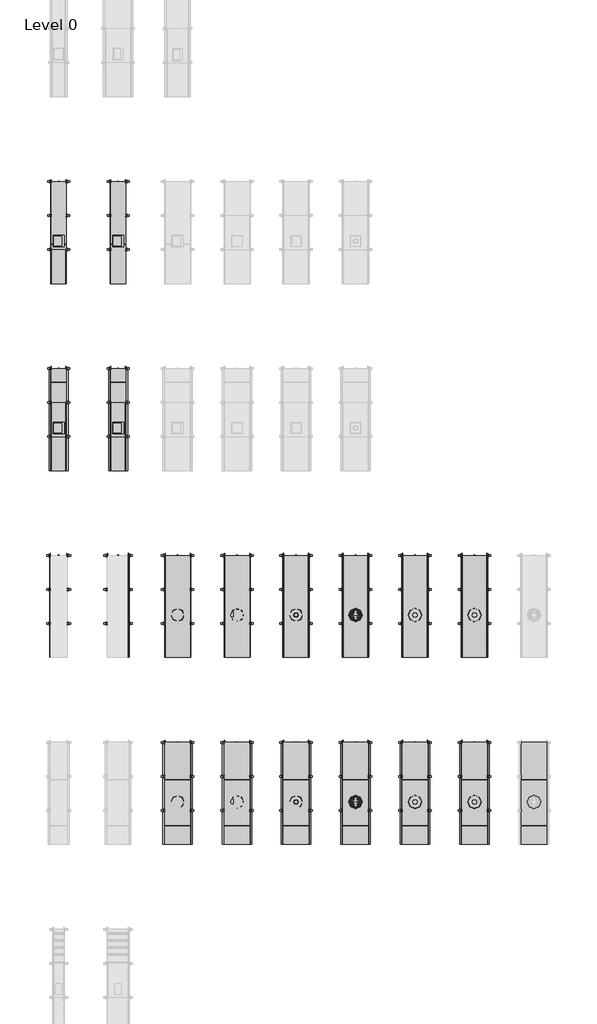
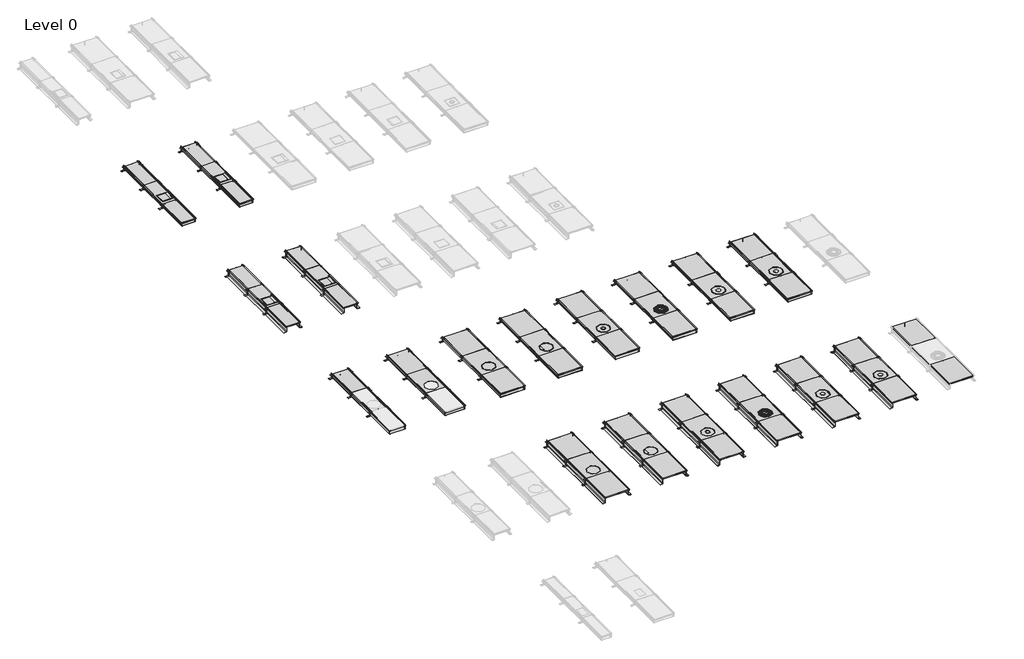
# One storey, part 2 of 4: 87 proxies, 17 cable carrier segments.
"""IFC4 building model written with IfcOpenShell, lengths in millimetres."""

from ifc_helpers import new_model, si_unit, frame, origin, place, context, project, spatial, polyline, outline, extrude, transform, mapped, element, save
from components import electrical_fixtures_b622e032, electrical_fixtures_5628a288, electrical_fixtures_3dcf8f7d, electrical_fixtures_91705b88, electrical_fixtures_aef36d11, electrical_fixtures_581fab28, electrical_fixtures_cec88ef4, electrical_fixtures_ba8608da, electrical_fixtures_4a2096c9, electrical_fixtures_b3832a11, electrical_fixtures_2455a1ed, electrical_fixtures_ce3c5b8d, electrical_fixtures_6beec135, electrical_fixtures_f82ab545, electrical_fixtures_a64f4c61, electrical_fixtures_7b31ae11, electrical_fixtures_a5200488, electrical_fixtures_af4d04ae, electrical_fixtures_e29cb0aa, electrical_fixtures_057aeb0d, electrical_fixtures_5c7b8e8e, color_deep_black_fa90bbad, stainless_steel_cassette_r12_bl_outer_height_28mm_04f2a1df, stainless_steel_cassette_r12_le_outer_height_28mm_2c233eef, stainless_steel_cassette_r12_tm_outer_height_28mm_5556ff63

model = new_model("IFC4")

# Units and contexts
model_context = context("Model", 3, world=origin())
ifc_project = project(units=[si_unit("LENGTHUNIT", "METRE", prefix="MILLI")], contexts=[model_context])

# Site, building, storey
site = spatial("IfcSite", under=ifc_project)
building = spatial("IfcBuilding", under=site)
storey = spatial("IfcBuildingStorey", under=building, Name="Level 0", Elevation=0.0)

# Proxies
placement = place(None, origin())
electrical_fixtures_shape = electrical_fixtures_b622e032(model_context)
element("IfcBuildingElementProxy", 1, Name="Electrical_Installation_Hager_Cover-R12-BKAD : Electrical_Installation_Hager_Cover-R12-BKAD", ObjectType="Electrical_Installation_Hager_Cover-R12-BKAD : Electrical_Installation_Hager_Cover-R12-BKAD", at=placement, inside=storey, context=model_context, shape_type="MappedRepresentation", body=[
    mapped(electrical_fixtures_shape, transform((-15999.1749622, -10496.4911142, 0.0), x_axis=(0.0, 1.0000000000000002, 0.0), y_axis=(-1.0000000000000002, 0.0, 0.0), z_axis=(0.0, 0.0, 1.0))),
])
element("IfcBuildingElementProxy", 2, Name="Electrical_Installation_Hager_Cover-R12-BKAD : Electrical_Installation_Hager_Cover-R12-BKAD", ObjectType="Electrical_Installation_Hager_Cover-R12-BKAD : Electrical_Installation_Hager_Cover-R12-BKAD", at=placement, inside=storey, context=model_context, shape_type="MappedRepresentation", body=[
    mapped(electrical_fixtures_shape, transform((-14599.1749622, -10496.4911142, 0.0), x_axis=(0.0, 1.0, 0.0), y_axis=(-1.0, 0.0, 0.0), z_axis=(0.0, 0.0, 1.0))),
])
element("IfcBuildingElementProxy", 3, Name="Electrical_Installation_Hager_Cover-R12-BKAD : Electrical_Installation_Hager_Cover-R12-BKAD", ObjectType="Electrical_Installation_Hager_Cover-R12-BKAD : Electrical_Installation_Hager_Cover-R12-BKAD", at=placement, inside=storey, context=model_context, shape_type="MappedRepresentation", body=[
    mapped(electrical_fixtures_shape, transform((-13212.1749622, -10496.4911142, 0.0), x_axis=(0.0, 1.0, 0.0), y_axis=(-1.0, 0.0, 0.0), z_axis=(0.0, 0.0, 1.0))),
])
element("IfcBuildingElementProxy", 4, Name="Electrical_Installation_Hager_Cover-R12-BKAD : Electrical_Installation_Hager_Cover-R12-BKAD", ObjectType="Electrical_Installation_Hager_Cover-R12-BKAD : Electrical_Installation_Hager_Cover-R12-BKAD", at=placement, inside=storey, context=model_context, shape_type="MappedRepresentation", body=[
    mapped(electrical_fixtures_shape, transform((-11812.1749622, -10496.4911142, 0.0), x_axis=(0.0, 1.0, 0.0), y_axis=(-1.0, 0.0, 0.0), z_axis=(0.0, 0.0, 1.0))),
])
element("IfcBuildingElementProxy", 5, Name="Electrical_Installation_Hager_Cover-R12-BKAD : Electrical_Installation_Hager_Cover-R12-BKAD", ObjectType="Electrical_Installation_Hager_Cover-R12-BKAD : Electrical_Installation_Hager_Cover-R12-BKAD", at=placement, inside=storey, context=model_context, shape_type="MappedRepresentation", body=[
    mapped(electrical_fixtures_shape, transform((-10412.2999622, -10496.4911142, 0.0), x_axis=(0.0, 1.0, 0.0), y_axis=(-1.0, 0.0, 0.0), z_axis=(0.0, 0.0, 1.0))),
])
element("IfcBuildingElementProxy", 6, Name="Electrical_Installation_Hager_Cover-R12-BKAD : Electrical_Installation_Hager_Cover-R12-BKAD", ObjectType="Electrical_Installation_Hager_Cover-R12-BKAD : Electrical_Installation_Hager_Cover-R12-BKAD", at=placement, inside=storey, context=model_context, shape_type="MappedRepresentation", body=[
    mapped(electrical_fixtures_shape, transform((-9012.1749622, -10496.4911142, 0.0), x_axis=(0.0, 1.0, 0.0), y_axis=(-1.0, 0.0, 0.0), z_axis=(0.0, 0.0, 1.0))),
])
element("IfcBuildingElementProxy", 7, Name="Electrical_Installation_Hager_Cover-R12-BKAD : Electrical_Installation_Hager_Cover-R12-BKAD", ObjectType="Electrical_Installation_Hager_Cover-R12-BKAD : Electrical_Installation_Hager_Cover-R12-BKAD", at=placement, inside=storey, context=model_context, shape_type="MappedRepresentation", body=[
    mapped(electrical_fixtures_shape, transform((-15999.1749622, -14896.5591011, 0.0), x_axis=(0.0, 1.0, 0.0), y_axis=(-1.0, 0.0, 0.0), z_axis=(0.0, 0.0, 1.0))),
])
element("IfcBuildingElementProxy", 8, Name="Electrical_Installation_Hager_Cover-R12-BKAD : Electrical_Installation_Hager_Cover-R12-BKAD", ObjectType="Electrical_Installation_Hager_Cover-R12-BKAD : Electrical_Installation_Hager_Cover-R12-BKAD", at=placement, inside=storey, context=model_context, shape_type="MappedRepresentation", body=[
    mapped(electrical_fixtures_shape, transform((-14599.1749622, -14896.5591011, 0.0), x_axis=(0.0, 1.0, 0.0), y_axis=(-1.0, 0.0, 0.0), z_axis=(0.0, 0.0, 1.0))),
])
element("IfcBuildingElementProxy", 9, Name="Electrical_Installation_Hager_Cover-R12-BKAD : Electrical_Installation_Hager_Cover-R12-BKAD", ObjectType="Electrical_Installation_Hager_Cover-R12-BKAD : Electrical_Installation_Hager_Cover-R12-BKAD", at=placement, inside=storey, context=model_context, shape_type="MappedRepresentation", body=[
    mapped(electrical_fixtures_shape, transform((-13212.1749622, -14896.5591011, 0.0), x_axis=(0.0, 1.0, 0.0), y_axis=(-1.0, 0.0, 0.0), z_axis=(0.0, 0.0, 1.0))),
])
element("IfcBuildingElementProxy", 10, Name="Electrical_Installation_Hager_Cover-R12-BKAD : Electrical_Installation_Hager_Cover-R12-BKAD", ObjectType="Electrical_Installation_Hager_Cover-R12-BKAD : Electrical_Installation_Hager_Cover-R12-BKAD", at=placement, inside=storey, context=model_context, shape_type="MappedRepresentation", body=[
    mapped(electrical_fixtures_shape, transform((-11812.1749622, -14896.5591011, 0.0), x_axis=(0.0, 1.0, 0.0), y_axis=(-1.0, 0.0, 0.0), z_axis=(0.0, 0.0, 1.0))),
])
element("IfcBuildingElementProxy", 11, Name="Electrical_Installation_Hager_Cover-R12-BKAD : Electrical_Installation_Hager_Cover-R12-BKAD", ObjectType="Electrical_Installation_Hager_Cover-R12-BKAD : Electrical_Installation_Hager_Cover-R12-BKAD", at=placement, inside=storey, context=model_context, shape_type="MappedRepresentation", body=[
    mapped(electrical_fixtures_shape, transform((-10412.2999622, -14896.5591011, 0.0), x_axis=(0.0, 1.0, 0.0), y_axis=(-1.0, 0.0, 0.0), z_axis=(0.0, 0.0, 1.0))),
])
element("IfcBuildingElementProxy", 12, Name="Electrical_Installation_Hager_Cover-R12-BKAD : Electrical_Installation_Hager_Cover-R12-BKAD", ObjectType="Electrical_Installation_Hager_Cover-R12-BKAD : Electrical_Installation_Hager_Cover-R12-BKAD", at=placement, inside=storey, context=model_context, shape_type="MappedRepresentation", body=[
    mapped(electrical_fixtures_shape, transform((-9012.1749622, -14896.5591011, 0.0), x_axis=(0.0, 1.0, 0.0), y_axis=(-1.0, 0.0, 0.0), z_axis=(0.0, 0.0, 1.0))),
])
electrical_fixtures_2_shape = electrical_fixtures_5628a288(model_context)
element("IfcBuildingElementProxy", 13, Name="Electrical_Installation_Hager_Cover-R12-BKAD : Electrical_Installation_Hager_Cover-R12-BKAD", ObjectType="Electrical_Installation_Hager_Cover-R12-BKAD : Electrical_Installation_Hager_Cover-R12-BKAD", at=placement, inside=storey, context=model_context, shape_type="MappedRepresentation", body=[
    mapped(electrical_fixtures_2_shape, transform((-17399.1749622, -10496.4911142, 0.0), x_axis=(0.0, 1.0000000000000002, 0.0), y_axis=(-1.0000000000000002, 0.0, 0.0), z_axis=(0.0, 0.0, 1.0))),
])
electrical_fixtures_3_shape = electrical_fixtures_3dcf8f7d(model_context)
electrical_fixtures_4_shape = electrical_fixtures_91705b88(model_context)
element("IfcBuildingElementProxy", 14, Name="Electrical_Installation_Hager_BKFD-Trunking-System-With-Flexible-Screed-Casing-And-Sealing-Option : Nominal Size 600  Length 2.4 m", ObjectType="Electrical_Installation_Hager_BKFD-Trunking-System-With-Flexible-Screed-Casing-And-Sealing-Option : Nominal Size 600  Length 2.4 m", at=placement, inside=storey, context=model_context, shape_type="MappedRepresentation", body=[
    mapped(electrical_fixtures_3_shape, transform((-15999.1749622, -13296.5591011, 0.0), x_axis=(0.0, -1.0, 0.0), y_axis=(1.0, 0.0, 0.0), z_axis=(0.0, 0.0, 1.0))),
    mapped(electrical_fixtures_4_shape, transform((-15999.1749622, -13296.5591011, 0.0), x_axis=(0.0, -1.0, 0.0), y_axis=(1.0, 0.0, 0.0), z_axis=(0.0, 0.0, 1.0))),
])
element("IfcBuildingElementProxy", 15, Name="Electrical_Installation_Hager_BKFD-Trunking-System-With-Flexible-Screed-Casing-And-Sealing-Option : Nominal Size 600  Length 2.4 m", ObjectType="Electrical_Installation_Hager_BKFD-Trunking-System-With-Flexible-Screed-Casing-And-Sealing-Option : Nominal Size 600  Length 2.4 m", at=placement, inside=storey, context=model_context, shape_type="MappedRepresentation", body=[
    mapped(electrical_fixtures_3_shape, transform((-14599.1749622, -13296.5591011, 0.0), x_axis=(0.0, -1.0, 0.0), y_axis=(1.0, 0.0, 0.0), z_axis=(0.0, 0.0, 1.0))),
    mapped(electrical_fixtures_4_shape, transform((-14599.1749622, -13296.5591011, 0.0), x_axis=(0.0, -1.0, 0.0), y_axis=(1.0, 0.0, 0.0), z_axis=(0.0, 0.0, 1.0))),
])
element("IfcBuildingElementProxy", 16, Name="Electrical_Installation_Hager_BKFD-Trunking-System-With-Flexible-Screed-Casing-And-Sealing-Option : Nominal Size 600  Length 2.4 m", ObjectType="Electrical_Installation_Hager_BKFD-Trunking-System-With-Flexible-Screed-Casing-And-Sealing-Option : Nominal Size 600  Length 2.4 m", at=placement, inside=storey, context=model_context, shape_type="MappedRepresentation", body=[
    mapped(electrical_fixtures_3_shape, transform((-13212.1749622, -13296.5591011, 0.0), x_axis=(0.0, -1.0, 0.0), y_axis=(1.0, 0.0, 0.0), z_axis=(0.0, 0.0, 1.0))),
    mapped(electrical_fixtures_4_shape, transform((-13212.1749622, -13296.5591011, 0.0), x_axis=(0.0, -1.0, 0.0), y_axis=(1.0, 0.0, 0.0), z_axis=(0.0, 0.0, 1.0))),
])
element("IfcBuildingElementProxy", 17, Name="Electrical_Installation_Hager_BKFD-Trunking-System-With-Flexible-Screed-Casing-And-Sealing-Option : Nominal Size 600  Length 2.4 m", ObjectType="Electrical_Installation_Hager_BKFD-Trunking-System-With-Flexible-Screed-Casing-And-Sealing-Option : Nominal Size 600  Length 2.4 m", at=placement, inside=storey, context=model_context, shape_type="MappedRepresentation", body=[
    mapped(electrical_fixtures_3_shape, transform((-11812.1749622, -13296.5591011, 0.0), x_axis=(0.0, -1.0, 0.0), y_axis=(1.0, 0.0, 0.0), z_axis=(0.0, 0.0, 1.0))),
    mapped(electrical_fixtures_4_shape, transform((-11812.1749622, -13296.5591011, 0.0), x_axis=(0.0, -1.0, 0.0), y_axis=(1.0, 0.0, 0.0), z_axis=(0.0, 0.0, 1.0))),
])
element("IfcBuildingElementProxy", 18, Name="Electrical_Installation_Hager_BKFD-Trunking-System-With-Flexible-Screed-Casing-And-Sealing-Option : Nominal Size 600  Length 2.4 m", ObjectType="Electrical_Installation_Hager_BKFD-Trunking-System-With-Flexible-Screed-Casing-And-Sealing-Option : Nominal Size 600  Length 2.4 m", at=placement, inside=storey, context=model_context, shape_type="MappedRepresentation", body=[
    mapped(electrical_fixtures_3_shape, transform((-10412.2999622, -13296.5591011, 0.0), x_axis=(0.0, -1.0, 0.0), y_axis=(1.0, 0.0, 0.0), z_axis=(0.0, 0.0, 1.0))),
    mapped(electrical_fixtures_4_shape, transform((-10412.2999622, -13296.5591011, 0.0), x_axis=(0.0, -1.0, 0.0), y_axis=(1.0, 0.0, 0.0), z_axis=(0.0, 0.0, 1.0))),
])
element("IfcBuildingElementProxy", 19, Name="Electrical_Installation_Hager_BKFD-Trunking-System-With-Flexible-Screed-Casing-And-Sealing-Option : Nominal Size 600  Length 2.4 m", ObjectType="Electrical_Installation_Hager_BKFD-Trunking-System-With-Flexible-Screed-Casing-And-Sealing-Option : Nominal Size 600  Length 2.4 m", at=placement, inside=storey, context=model_context, shape_type="MappedRepresentation", body=[
    mapped(electrical_fixtures_3_shape, transform((-9012.1749622, -13296.5591011, 0.0), x_axis=(0.0, -1.0, 0.0), y_axis=(1.0, 0.0, 0.0), z_axis=(0.0, 0.0, 1.0))),
    mapped(electrical_fixtures_4_shape, transform((-9012.1749622, -13296.5591011, 0.0), x_axis=(0.0, -1.0, 0.0), y_axis=(1.0, 0.0, 0.0), z_axis=(0.0, 0.0, 1.0))),
])
electrical_fixtures_5_shape = electrical_fixtures_aef36d11(model_context)
element("IfcBuildingElementProxy", 20, Name="Electrical_Installation_Hager_Blank-Cover-BKA : Electrical_Installation_Hager_Blank-Cover-BKA", ObjectType="Electrical_Installation_Hager_Blank-Cover-BKA : Electrical_Installation_Hager_Blank-Cover-BKA", at=placement, inside=storey, context=model_context, shape_type="MappedRepresentation", body=[
    mapped(electrical_fixtures_5_shape, transform((-18799.1749622, -9696.4911142, 0.0), x_axis=(0.0, 1.0, 0.0), y_axis=(-1.0, 0.0, 0.0), z_axis=(0.0, 0.0, 1.0))),
])
electrical_fixtures_6_shape = electrical_fixtures_581fab28(model_context)
element("IfcBuildingElementProxy", 21, Name="Electrical_Installation_Hager_Blank-Cover-BKA : Electrical_Installation_Hager_Blank-Cover-BKA", ObjectType="Electrical_Installation_Hager_Blank-Cover-BKA : Electrical_Installation_Hager_Blank-Cover-BKA", at=placement, inside=storey, context=model_context, shape_type="MappedRepresentation", body=[
    mapped(electrical_fixtures_6_shape, transform((-18799.1749622, -96.4762943, 0.0), x_axis=(0.0, -1.0, 0.0), y_axis=(1.0, 0.0, 0.0), z_axis=(0.0, 0.0, 1.0))),
])
element("IfcBuildingElementProxy", 22, Name="Electrical_Installation_Hager_Blank-Cover-BKA : Electrical_Installation_Hager_Blank-Cover-BKA", ObjectType="Electrical_Installation_Hager_Blank-Cover-BKA : Electrical_Installation_Hager_Blank-Cover-BKA", at=placement, inside=storey, context=model_context, shape_type="MappedRepresentation", body=[
    mapped(electrical_fixtures_6_shape, transform((-18799.1749622, -2496.4762943, 0.0), x_axis=(0.0, 1.0, 0.0), y_axis=(-1.0, 0.0, 0.0), z_axis=(0.0, 0.0, 1.0))),
])
element("IfcBuildingElementProxy", 23, Name="Electrical_Installation_Hager_Blank-Cover-BKA : Electrical_Installation_Hager_Blank-Cover-BKA", ObjectType="Electrical_Installation_Hager_Blank-Cover-BKA : Electrical_Installation_Hager_Blank-Cover-BKA", at=placement, inside=storey, context=model_context, shape_type="MappedRepresentation", body=[
    mapped(electrical_fixtures_6_shape, transform((-17399.1749622, -896.4762943, 0.0), x_axis=(0.0, 1.0, 0.0), y_axis=(-1.0, 0.0, 0.0), z_axis=(0.0, 0.0, 1.0))),
])
element("IfcBuildingElementProxy", 24, Name="Electrical_Installation_Hager_Blank-Cover-BKA : Electrical_Installation_Hager_Blank-Cover-BKA", ObjectType="Electrical_Installation_Hager_Blank-Cover-BKA : Electrical_Installation_Hager_Blank-Cover-BKA", at=placement, inside=storey, context=model_context, shape_type="MappedRepresentation", body=[
    mapped(electrical_fixtures_6_shape, transform((-17399.1749622, -1696.4762943, 0.0), x_axis=(0.0, -1.0, 0.0), y_axis=(1.0, 0.0, 0.0), z_axis=(0.0, 0.0, 1.0))),
])
element("IfcBuildingElementProxy", 25, Name="Electrical_Installation_Hager_Blank-Cover-BKA : Electrical_Installation_Hager_Blank-Cover-BKA", ObjectType="Electrical_Installation_Hager_Blank-Cover-BKA : Electrical_Installation_Hager_Blank-Cover-BKA", at=placement, inside=storey, context=model_context, shape_type="MappedRepresentation", body=[
    mapped(electrical_fixtures_6_shape, transform((-18799.1749622, -4496.4169363, 0.0), x_axis=(0.0, -1.0, 0.0), y_axis=(1.0, 0.0, 0.0), z_axis=(0.0, 0.0, 1.0))),
])
element("IfcBuildingElementProxy", 26, Name="Electrical_Installation_Hager_Blank-Cover-BKA : Electrical_Installation_Hager_Blank-Cover-BKA", ObjectType="Electrical_Installation_Hager_Blank-Cover-BKA : Electrical_Installation_Hager_Blank-Cover-BKA", at=placement, inside=storey, context=model_context, shape_type="MappedRepresentation", body=[
    mapped(electrical_fixtures_6_shape, transform((-18799.1749622, -6896.4169363, 0.0), x_axis=(0.0, 1.0, 0.0), y_axis=(-1.0, 0.0, 0.0), z_axis=(0.0, 0.0, 1.0))),
])
element("IfcBuildingElementProxy", 27, Name="Electrical_Installation_Hager_Blank-Cover-BKA : Electrical_Installation_Hager_Blank-Cover-BKA", ObjectType="Electrical_Installation_Hager_Blank-Cover-BKA : Electrical_Installation_Hager_Blank-Cover-BKA", at=placement, inside=storey, context=model_context, shape_type="MappedRepresentation", body=[
    mapped(electrical_fixtures_6_shape, transform((-17399.1749622, -5296.4169363, 0.0), x_axis=(0.0, 1.0, 0.0), y_axis=(-1.0, 0.0, 0.0), z_axis=(0.0, 0.0, 1.0))),
])
element("IfcBuildingElementProxy", 28, Name="Electrical_Installation_Hager_Blank-Cover-BKA : Electrical_Installation_Hager_Blank-Cover-BKA", ObjectType="Electrical_Installation_Hager_Blank-Cover-BKA : Electrical_Installation_Hager_Blank-Cover-BKA", at=placement, inside=storey, context=model_context, shape_type="MappedRepresentation", body=[
    mapped(electrical_fixtures_6_shape, transform((-17399.1749622, -6096.4169363, 0.0), x_axis=(0.0, -1.0, 0.0), y_axis=(1.0, 0.0, 0.0), z_axis=(0.0, 0.0, 1.0))),
])
electrical_fixtures_7_shape = electrical_fixtures_cec88ef4(model_context)
element("IfcBuildingElementProxy", 29, Name="Electrical_Installation_Hager_Blank-Cover-BKAD : Electrical_Installation_Hager_Blank-Cover-BKAD", ObjectType="Electrical_Installation_Hager_Blank-Cover-BKAD : Electrical_Installation_Hager_Blank-Cover-BKAD", at=placement, inside=storey, context=model_context, shape_type="MappedRepresentation", body=[
    mapped(electrical_fixtures_7_shape, transform((-15999.1749622, -10496.4911142, 0.0), x_axis=(0.0, -1.0, 0.0), y_axis=(1.0, 0.0, 0.0), z_axis=(0.0, 0.0, 1.0))),
])
element("IfcBuildingElementProxy", 30, Name="Electrical_Installation_Hager_Blank-Cover-BKAD : Electrical_Installation_Hager_Blank-Cover-BKAD", ObjectType="Electrical_Installation_Hager_Blank-Cover-BKAD : Electrical_Installation_Hager_Blank-Cover-BKAD", at=placement, inside=storey, context=model_context, shape_type="MappedRepresentation", body=[
    mapped(electrical_fixtures_7_shape, transform((-15999.1749622, -9696.4911142, 0.0), x_axis=(0.0, 1.0, 0.0), y_axis=(-1.0, 0.0, 0.0), z_axis=(0.0, 0.0, 1.0))),
])
element("IfcBuildingElementProxy", 31, Name="Electrical_Installation_Hager_Blank-Cover-BKAD : Electrical_Installation_Hager_Blank-Cover-BKAD", ObjectType="Electrical_Installation_Hager_Blank-Cover-BKAD : Electrical_Installation_Hager_Blank-Cover-BKAD", at=placement, inside=storey, context=model_context, shape_type="MappedRepresentation", body=[
    mapped(electrical_fixtures_7_shape, transform((-14599.1749622, -10496.4911142, 0.0), x_axis=(0.0, -1.0, 0.0), y_axis=(1.0, 0.0, 0.0), z_axis=(0.0, 0.0, 1.0))),
])
element("IfcBuildingElementProxy", 32, Name="Electrical_Installation_Hager_Blank-Cover-BKAD : Electrical_Installation_Hager_Blank-Cover-BKAD", ObjectType="Electrical_Installation_Hager_Blank-Cover-BKAD : Electrical_Installation_Hager_Blank-Cover-BKAD", at=placement, inside=storey, context=model_context, shape_type="MappedRepresentation", body=[
    mapped(electrical_fixtures_7_shape, transform((-14599.1749622, -9696.4911142, 0.0), x_axis=(0.0, 1.0, 0.0), y_axis=(-1.0, 0.0, 0.0), z_axis=(0.0, 0.0, 1.0))),
])
element("IfcBuildingElementProxy", 33, Name="Electrical_Installation_Hager_Blank-Cover-BKAD : Electrical_Installation_Hager_Blank-Cover-BKAD", ObjectType="Electrical_Installation_Hager_Blank-Cover-BKAD : Electrical_Installation_Hager_Blank-Cover-BKAD", at=placement, inside=storey, context=model_context, shape_type="MappedRepresentation", body=[
    mapped(electrical_fixtures_7_shape, transform((-13212.1749622, -10496.4911142, 0.0), x_axis=(0.0, -1.0, 0.0), y_axis=(1.0, 0.0, 0.0), z_axis=(0.0, 0.0, 1.0))),
])
element("IfcBuildingElementProxy", 34, Name="Electrical_Installation_Hager_Blank-Cover-BKAD : Electrical_Installation_Hager_Blank-Cover-BKAD", ObjectType="Electrical_Installation_Hager_Blank-Cover-BKAD : Electrical_Installation_Hager_Blank-Cover-BKAD", at=placement, inside=storey, context=model_context, shape_type="MappedRepresentation", body=[
    mapped(electrical_fixtures_7_shape, transform((-13212.1749622, -9696.4911142, 0.0), x_axis=(0.0, 1.0, 0.0), y_axis=(-1.0, 0.0, 0.0), z_axis=(0.0, 0.0, 1.0))),
])
element("IfcBuildingElementProxy", 35, Name="Electrical_Installation_Hager_Blank-Cover-BKAD : Electrical_Installation_Hager_Blank-Cover-BKAD", ObjectType="Electrical_Installation_Hager_Blank-Cover-BKAD : Electrical_Installation_Hager_Blank-Cover-BKAD", at=placement, inside=storey, context=model_context, shape_type="MappedRepresentation", body=[
    mapped(electrical_fixtures_7_shape, transform((-11812.1749622, -10496.4911142, 0.0), x_axis=(0.0, -1.0, 0.0), y_axis=(1.0, 0.0, 0.0), z_axis=(0.0, 0.0, 1.0))),
])
element("IfcBuildingElementProxy", 36, Name="Electrical_Installation_Hager_Blank-Cover-BKAD : Electrical_Installation_Hager_Blank-Cover-BKAD", ObjectType="Electrical_Installation_Hager_Blank-Cover-BKAD : Electrical_Installation_Hager_Blank-Cover-BKAD", at=placement, inside=storey, context=model_context, shape_type="MappedRepresentation", body=[
    mapped(electrical_fixtures_7_shape, transform((-11812.1749622, -9696.4911142, 0.0), x_axis=(0.0, 1.0, 0.0), y_axis=(-1.0, 0.0, 0.0), z_axis=(0.0, 0.0, 1.0))),
])
element("IfcBuildingElementProxy", 37, Name="Electrical_Installation_Hager_Blank-Cover-BKAD : Electrical_Installation_Hager_Blank-Cover-BKAD", ObjectType="Electrical_Installation_Hager_Blank-Cover-BKAD : Electrical_Installation_Hager_Blank-Cover-BKAD", at=placement, inside=storey, context=model_context, shape_type="MappedRepresentation", body=[
    mapped(electrical_fixtures_7_shape, transform((-10412.2999622, -10496.4911142, 0.0), x_axis=(0.0, -1.0, 0.0), y_axis=(1.0, 0.0, 0.0), z_axis=(0.0, 0.0, 1.0))),
])
element("IfcBuildingElementProxy", 38, Name="Electrical_Installation_Hager_Blank-Cover-BKAD : Electrical_Installation_Hager_Blank-Cover-BKAD", ObjectType="Electrical_Installation_Hager_Blank-Cover-BKAD : Electrical_Installation_Hager_Blank-Cover-BKAD", at=placement, inside=storey, context=model_context, shape_type="MappedRepresentation", body=[
    mapped(electrical_fixtures_7_shape, transform((-10412.2999622, -9696.4911142, 0.0), x_axis=(0.0, 1.0, 0.0), y_axis=(-1.0, 0.0, 0.0), z_axis=(0.0, 0.0, 1.0))),
])
element("IfcBuildingElementProxy", 39, Name="Electrical_Installation_Hager_Blank-Cover-BKAD : Electrical_Installation_Hager_Blank-Cover-BKAD", ObjectType="Electrical_Installation_Hager_Blank-Cover-BKAD : Electrical_Installation_Hager_Blank-Cover-BKAD", at=placement, inside=storey, context=model_context, shape_type="MappedRepresentation", body=[
    mapped(electrical_fixtures_7_shape, transform((-9012.1749622, -10496.4911142, 0.0), x_axis=(0.0, -1.0, 0.0), y_axis=(1.0, 0.0, 0.0), z_axis=(0.0, 0.0, 1.0))),
])
element("IfcBuildingElementProxy", 40, Name="Electrical_Installation_Hager_Blank-Cover-BKAD : Electrical_Installation_Hager_Blank-Cover-BKAD", ObjectType="Electrical_Installation_Hager_Blank-Cover-BKAD : Electrical_Installation_Hager_Blank-Cover-BKAD", at=placement, inside=storey, context=model_context, shape_type="MappedRepresentation", body=[
    mapped(electrical_fixtures_7_shape, transform((-9012.1749622, -9696.4911142, 0.0), x_axis=(0.0, 1.0, 0.0), y_axis=(-1.0, 0.0, 0.0), z_axis=(0.0, 0.0, 1.0))),
])
element("IfcBuildingElementProxy", 41, Name="Electrical_Installation_Hager_Blank-Cover-BKAD : Electrical_Installation_Hager_Blank-Cover-BKAD", ObjectType="Electrical_Installation_Hager_Blank-Cover-BKAD : Electrical_Installation_Hager_Blank-Cover-BKAD", at=placement, inside=storey, context=model_context, shape_type="MappedRepresentation", body=[
    mapped(electrical_fixtures_7_shape, transform((-15999.1749622, -14896.5591011, 0.0), x_axis=(0.0, -1.0, 0.0), y_axis=(1.0, 0.0, 0.0), z_axis=(0.0, 0.0, 1.0))),
])
element("IfcBuildingElementProxy", 42, Name="Electrical_Installation_Hager_Blank-Cover-BKAD : Electrical_Installation_Hager_Blank-Cover-BKAD", ObjectType="Electrical_Installation_Hager_Blank-Cover-BKAD : Electrical_Installation_Hager_Blank-Cover-BKAD", at=placement, inside=storey, context=model_context, shape_type="MappedRepresentation", body=[
    mapped(electrical_fixtures_7_shape, transform((-15999.1749622, -14096.5591011, 0.0), x_axis=(0.0, 1.0, 0.0), y_axis=(-1.0, 0.0, 0.0), z_axis=(0.0, 0.0, 1.0))),
])
element("IfcBuildingElementProxy", 43, Name="Electrical_Installation_Hager_Blank-Cover-BKAD : Electrical_Installation_Hager_Blank-Cover-BKAD", ObjectType="Electrical_Installation_Hager_Blank-Cover-BKAD : Electrical_Installation_Hager_Blank-Cover-BKAD", at=placement, inside=storey, context=model_context, shape_type="MappedRepresentation", body=[
    mapped(electrical_fixtures_7_shape, transform((-14599.1749622, -14896.5591011, 0.0), x_axis=(0.0, -1.0, 0.0), y_axis=(1.0, 0.0, 0.0), z_axis=(0.0, 0.0, 1.0))),
])
element("IfcBuildingElementProxy", 44, Name="Electrical_Installation_Hager_Blank-Cover-BKAD : Electrical_Installation_Hager_Blank-Cover-BKAD", ObjectType="Electrical_Installation_Hager_Blank-Cover-BKAD : Electrical_Installation_Hager_Blank-Cover-BKAD", at=placement, inside=storey, context=model_context, shape_type="MappedRepresentation", body=[
    mapped(electrical_fixtures_7_shape, transform((-14599.1749622, -14096.5591011, 0.0), x_axis=(0.0, 1.0, 0.0), y_axis=(-1.0, 0.0, 0.0), z_axis=(0.0, 0.0, 1.0))),
])
element("IfcBuildingElementProxy", 45, Name="Electrical_Installation_Hager_Blank-Cover-BKAD : Electrical_Installation_Hager_Blank-Cover-BKAD", ObjectType="Electrical_Installation_Hager_Blank-Cover-BKAD : Electrical_Installation_Hager_Blank-Cover-BKAD", at=placement, inside=storey, context=model_context, shape_type="MappedRepresentation", body=[
    mapped(electrical_fixtures_7_shape, transform((-13212.1749622, -14896.5591011, 0.0), x_axis=(0.0, -1.0, 0.0), y_axis=(1.0, 0.0, 0.0), z_axis=(0.0, 0.0, 1.0))),
])
element("IfcBuildingElementProxy", 46, Name="Electrical_Installation_Hager_Blank-Cover-BKAD : Electrical_Installation_Hager_Blank-Cover-BKAD", ObjectType="Electrical_Installation_Hager_Blank-Cover-BKAD : Electrical_Installation_Hager_Blank-Cover-BKAD", at=placement, inside=storey, context=model_context, shape_type="MappedRepresentation", body=[
    mapped(electrical_fixtures_7_shape, transform((-13212.1749622, -14096.5591011, 0.0), x_axis=(0.0, 1.0, 0.0), y_axis=(-1.0, 0.0, 0.0), z_axis=(0.0, 0.0, 1.0))),
])
element("IfcBuildingElementProxy", 47, Name="Electrical_Installation_Hager_Blank-Cover-BKAD : Electrical_Installation_Hager_Blank-Cover-BKAD", ObjectType="Electrical_Installation_Hager_Blank-Cover-BKAD : Electrical_Installation_Hager_Blank-Cover-BKAD", at=placement, inside=storey, context=model_context, shape_type="MappedRepresentation", body=[
    mapped(electrical_fixtures_7_shape, transform((-11812.1749622, -14896.5591011, 0.0), x_axis=(0.0, -1.0, 0.0), y_axis=(1.0, 0.0, 0.0), z_axis=(0.0, 0.0, 1.0))),
])
element("IfcBuildingElementProxy", 48, Name="Electrical_Installation_Hager_Blank-Cover-BKAD : Electrical_Installation_Hager_Blank-Cover-BKAD", ObjectType="Electrical_Installation_Hager_Blank-Cover-BKAD : Electrical_Installation_Hager_Blank-Cover-BKAD", at=placement, inside=storey, context=model_context, shape_type="MappedRepresentation", body=[
    mapped(electrical_fixtures_7_shape, transform((-11812.1749622, -14096.5591011, 0.0), x_axis=(0.0, 1.0, 0.0), y_axis=(-1.0, 0.0, 0.0), z_axis=(0.0, 0.0, 1.0))),
])
element("IfcBuildingElementProxy", 49, Name="Electrical_Installation_Hager_Blank-Cover-BKAD : Electrical_Installation_Hager_Blank-Cover-BKAD", ObjectType="Electrical_Installation_Hager_Blank-Cover-BKAD : Electrical_Installation_Hager_Blank-Cover-BKAD", at=placement, inside=storey, context=model_context, shape_type="MappedRepresentation", body=[
    mapped(electrical_fixtures_7_shape, transform((-10412.2999622, -14896.5591011, 0.0), x_axis=(0.0, -1.0, 0.0), y_axis=(1.0, 0.0, 0.0), z_axis=(0.0, 0.0, 1.0))),
])
element("IfcBuildingElementProxy", 50, Name="Electrical_Installation_Hager_Blank-Cover-BKAD : Electrical_Installation_Hager_Blank-Cover-BKAD", ObjectType="Electrical_Installation_Hager_Blank-Cover-BKAD : Electrical_Installation_Hager_Blank-Cover-BKAD", at=placement, inside=storey, context=model_context, shape_type="MappedRepresentation", body=[
    mapped(electrical_fixtures_7_shape, transform((-10412.2999622, -14096.5591011, 0.0), x_axis=(0.0, 1.0, 0.0), y_axis=(-1.0, 0.0, 0.0), z_axis=(0.0, 0.0, 1.0))),
])
element("IfcBuildingElementProxy", 51, Name="Electrical_Installation_Hager_Blank-Cover-BKAD : Electrical_Installation_Hager_Blank-Cover-BKAD", ObjectType="Electrical_Installation_Hager_Blank-Cover-BKAD : Electrical_Installation_Hager_Blank-Cover-BKAD", at=placement, inside=storey, context=model_context, shape_type="MappedRepresentation", body=[
    mapped(electrical_fixtures_7_shape, transform((-9012.1749622, -14896.5591011, 0.0), x_axis=(0.0, -1.0, 0.0), y_axis=(1.0, 0.0, 0.0), z_axis=(0.0, 0.0, 1.0))),
])
element("IfcBuildingElementProxy", 52, Name="Electrical_Installation_Hager_Blank-Cover-BKAD : Electrical_Installation_Hager_Blank-Cover-BKAD", ObjectType="Electrical_Installation_Hager_Blank-Cover-BKAD : Electrical_Installation_Hager_Blank-Cover-BKAD", at=placement, inside=storey, context=model_context, shape_type="MappedRepresentation", body=[
    mapped(electrical_fixtures_7_shape, transform((-9012.1749622, -14096.5591011, 0.0), x_axis=(0.0, 1.0, 0.0), y_axis=(-1.0, 0.0, 0.0), z_axis=(0.0, 0.0, 1.0))),
])
element("IfcBuildingElementProxy", 53, Name="Electrical_Installation_Hager_Blank-Cover-BKAD : Electrical_Installation_Hager_Blank-Cover-BKAD", ObjectType="Electrical_Installation_Hager_Blank-Cover-BKAD : Electrical_Installation_Hager_Blank-Cover-BKAD", at=placement, inside=storey, context=model_context, shape_type="MappedRepresentation", body=[
    mapped(electrical_fixtures_7_shape, transform((-7612.1749622, -14896.5591011, 0.0), x_axis=(0.0, -1.0, 0.0), y_axis=(1.0, 0.0, 0.0), z_axis=(0.0, 0.0, 1.0))),
])
element("IfcBuildingElementProxy", 54, Name="Electrical_Installation_Hager_Blank-Cover-BKAD : Electrical_Installation_Hager_Blank-Cover-BKAD", ObjectType="Electrical_Installation_Hager_Blank-Cover-BKAD : Electrical_Installation_Hager_Blank-Cover-BKAD", at=placement, inside=storey, context=model_context, shape_type="MappedRepresentation", body=[
    mapped(electrical_fixtures_7_shape, transform((-7612.1749622, -14096.5591011, 0.0), x_axis=(0.0, 1.0, 0.0), y_axis=(-1.0, 0.0, 0.0), z_axis=(0.0, 0.0, 1.0))),
])
electrical_fixtures_8_shape = electrical_fixtures_ba8608da(model_context)
element("IfcBuildingElementProxy", 55, Name="Electrical_Installation_Hager_Blank-Cover-BKAD : Electrical_Installation_Hager_Blank-Cover-BKAD", ObjectType="Electrical_Installation_Hager_Blank-Cover-BKAD : Electrical_Installation_Hager_Blank-Cover-BKAD", at=placement, inside=storey, context=model_context, shape_type="MappedRepresentation", body=[
    mapped(electrical_fixtures_8_shape, transform((-17399.1749622, -9696.4911142, 0.0), x_axis=(0.0, 1.0, 0.0), y_axis=(-1.0, 0.0, 0.0), z_axis=(0.0, 0.0, 1.0))),
])
electrical_fixtures_9_shape = electrical_fixtures_4a2096c9(model_context)
electrical_fixtures_10_shape = electrical_fixtures_b3832a11(model_context)
element("IfcBuildingElementProxy", 56, Name="Electrical_Installation_Hager_BKWD-Trunking-System-With-Trunking-Bottom-And-Sealing-Option : Nominal Size 600  Length 2.4 m", ObjectType="Electrical_Installation_Hager_BKWD-Trunking-System-With-Trunking-Bottom-And-Sealing-Option : Nominal Size 600  Length 2.4 m", at=placement, inside=storey, context=model_context, shape_type="MappedRepresentation", body=[
    mapped(electrical_fixtures_9_shape, transform((-15999.1749622, -8896.4911142, 0.0), x_axis=(0.0, -1.0, 0.0), y_axis=(1.0, 0.0, 0.0), z_axis=(0.0, 0.0, 1.0))),
    mapped(electrical_fixtures_10_shape, transform((-15999.1749622, -8896.4911142, 0.0), x_axis=(0.0, -1.0, 0.0), y_axis=(1.0, 0.0, 0.0), z_axis=(0.0, 0.0, 1.0))),
])
element("IfcBuildingElementProxy", 57, Name="Electrical_Installation_Hager_BKWD-Trunking-System-With-Trunking-Bottom-And-Sealing-Option : Nominal Size 600  Length 2.4 m", ObjectType="Electrical_Installation_Hager_BKWD-Trunking-System-With-Trunking-Bottom-And-Sealing-Option : Nominal Size 600  Length 2.4 m", at=placement, inside=storey, context=model_context, shape_type="MappedRepresentation", body=[
    mapped(electrical_fixtures_9_shape, transform((-14599.1749622, -8896.4911142, 0.0), x_axis=(0.0, -1.0, 0.0), y_axis=(1.0, 0.0, 0.0), z_axis=(0.0, 0.0, 1.0))),
    mapped(electrical_fixtures_10_shape, transform((-14599.1749622, -8896.4911142, 0.0), x_axis=(0.0, -1.0, 0.0), y_axis=(1.0, 0.0, 0.0), z_axis=(0.0, 0.0, 1.0))),
])
element("IfcBuildingElementProxy", 58, Name="Electrical_Installation_Hager_BKWD-Trunking-System-With-Trunking-Bottom-And-Sealing-Option : Nominal Size 600  Length 2.4 m", ObjectType="Electrical_Installation_Hager_BKWD-Trunking-System-With-Trunking-Bottom-And-Sealing-Option : Nominal Size 600  Length 2.4 m", at=placement, inside=storey, context=model_context, shape_type="MappedRepresentation", body=[
    mapped(electrical_fixtures_9_shape, transform((-13212.1749622, -8896.4911142, 0.0), x_axis=(0.0, -1.0, 0.0), y_axis=(1.0, 0.0, 0.0), z_axis=(0.0, 0.0, 1.0))),
    mapped(electrical_fixtures_10_shape, transform((-13212.1749622, -8896.4911142, 0.0), x_axis=(0.0, -1.0, 0.0), y_axis=(1.0, 0.0, 0.0), z_axis=(0.0, 0.0, 1.0))),
])
element("IfcBuildingElementProxy", 59, Name="Electrical_Installation_Hager_BKWD-Trunking-System-With-Trunking-Bottom-And-Sealing-Option : Nominal Size 600  Length 2.4 m", ObjectType="Electrical_Installation_Hager_BKWD-Trunking-System-With-Trunking-Bottom-And-Sealing-Option : Nominal Size 600  Length 2.4 m", at=placement, inside=storey, context=model_context, shape_type="MappedRepresentation", body=[
    mapped(electrical_fixtures_9_shape, transform((-11812.1749622, -8896.4911142, 0.0), x_axis=(0.0, -1.0, 0.0), y_axis=(1.0, 0.0, 0.0), z_axis=(0.0, 0.0, 1.0))),
    mapped(electrical_fixtures_10_shape, transform((-11812.1749622, -8896.4911142, 0.0), x_axis=(0.0, -1.0, 0.0), y_axis=(1.0, 0.0, 0.0), z_axis=(0.0, 0.0, 1.0))),
])
element("IfcBuildingElementProxy", 60, Name="Electrical_Installation_Hager_BKWD-Trunking-System-With-Trunking-Bottom-And-Sealing-Option : Nominal Size 600  Length 2.4 m", ObjectType="Electrical_Installation_Hager_BKWD-Trunking-System-With-Trunking-Bottom-And-Sealing-Option : Nominal Size 600  Length 2.4 m", at=placement, inside=storey, context=model_context, shape_type="MappedRepresentation", body=[
    mapped(electrical_fixtures_9_shape, transform((-10412.2999622, -8896.4911142, 0.0), x_axis=(0.0, -1.0, 0.0), y_axis=(1.0, 0.0, 0.0), z_axis=(0.0, 0.0, 1.0))),
    mapped(electrical_fixtures_10_shape, transform((-10412.2999622, -8896.4911142, 0.0), x_axis=(0.0, -1.0, 0.0), y_axis=(1.0, 0.0, 0.0), z_axis=(0.0, 0.0, 1.0))),
])
element("IfcBuildingElementProxy", 61, Name="Electrical_Installation_Hager_BKWD-Trunking-System-With-Trunking-Bottom-And-Sealing-Option : Nominal Size 600  Length 2.4 m", ObjectType="Electrical_Installation_Hager_BKWD-Trunking-System-With-Trunking-Bottom-And-Sealing-Option : Nominal Size 600  Length 2.4 m", at=placement, inside=storey, context=model_context, shape_type="MappedRepresentation", body=[
    mapped(electrical_fixtures_9_shape, transform((-9012.1749622, -8896.4911142, 0.0), x_axis=(0.0, -1.0, 0.0), y_axis=(1.0, 0.0, 0.0), z_axis=(0.0, 0.0, 1.0))),
    mapped(electrical_fixtures_10_shape, transform((-9012.1749622, -8896.4911142, 0.0), x_axis=(0.0, -1.0, 0.0), y_axis=(1.0, 0.0, 0.0), z_axis=(0.0, 0.0, 1.0))),
])
electrical_fixtures_11_shape = electrical_fixtures_2455a1ed(model_context)
electrical_fixtures_12_shape = electrical_fixtures_ce3c5b8d(model_context)
element("IfcBuildingElementProxy", 62, Name="Electrical_Installation_Hager_BKWD-Trunking-System-With-Trunking-Bottom-And-Sealing-Option : Nominal Size 500  Length 2.4 m", ObjectType="Electrical_Installation_Hager_BKWD-Trunking-System-With-Trunking-Bottom-And-Sealing-Option : Nominal Size 500  Length 2.4 m", at=placement, inside=storey, context=model_context, shape_type="MappedRepresentation", body=[
    mapped(electrical_fixtures_11_shape, transform((-17399.1749622, -8896.4911142, 0.0), x_axis=(0.0, -1.0, 0.0), y_axis=(1.0, 0.0, 0.0), z_axis=(0.0, 0.0, 1.0))),
    mapped(electrical_fixtures_12_shape, transform((-17399.1749622, -8896.4911142, 0.0), x_axis=(0.0, -1.0, 0.0), y_axis=(1.0, 0.0, 0.0), z_axis=(0.0, 0.0, 1.0))),
])
electrical_fixtures_13_shape = electrical_fixtures_6beec135(model_context)
electrical_fixtures_14_shape = electrical_fixtures_f82ab545(model_context)
element("IfcBuildingElementProxy", 63, Name="Electrical_Installation_Hager_BKW-Trunking-System-With-Trunking-Bottom-For-Dry-Cleaned-Floors : Nominal Size 350  Length 2.4 m", ObjectType="Electrical_Installation_Hager_BKW-Trunking-System-With-Trunking-Bottom-For-Dry-Cleaned-Floors : Nominal Size 350  Length 2.4 m", at=placement, inside=storey, context=model_context, shape_type="MappedRepresentation", body=[
    mapped(electrical_fixtures_13_shape, transform((-18799.1749622, -96.4762943, 0.0), x_axis=(0.0, -1.0, 0.0), y_axis=(1.0, 0.0, 0.0), z_axis=(0.0, 0.0, 1.0))),
    mapped(electrical_fixtures_14_shape, transform((-18799.1749622, -96.4762943, 0.0), x_axis=(0.0, -1.0, 0.0), y_axis=(1.0, 0.0, 0.0), z_axis=(0.0, 0.0, 1.0))),
])
element("IfcBuildingElementProxy", 64, Name="Electrical_Installation_Hager_BKW-Trunking-System-With-Trunking-Bottom-For-Dry-Cleaned-Floors : Nominal Size 350  Length 2.4 m", ObjectType="Electrical_Installation_Hager_BKW-Trunking-System-With-Trunking-Bottom-For-Dry-Cleaned-Floors : Nominal Size 350  Length 2.4 m", at=placement, inside=storey, context=model_context, shape_type="MappedRepresentation", body=[
    mapped(electrical_fixtures_13_shape, transform((-17399.1749622, -96.4762943, 0.0), x_axis=(0.0, -1.0, 0.0), y_axis=(1.0, 0.0, 0.0), z_axis=(0.0, 0.0, 1.0))),
    mapped(electrical_fixtures_14_shape, transform((-17399.1749622, -96.4762943, 0.0), x_axis=(0.0, -1.0, 0.0), y_axis=(1.0, 0.0, 0.0), z_axis=(0.0, 0.0, 1.0))),
])
electrical_fixtures_15_shape = electrical_fixtures_a64f4c61(model_context)
electrical_fixtures_16_shape = electrical_fixtures_7b31ae11(model_context)
element("IfcBuildingElementProxy", 65, Name="Electrical_Installation_Hager_BKW-Trunking-System-With-Trunking-Bottom-For-Dry-Cleaned-Floors : Nominal Size 400  Length 2.4 m", ObjectType="Electrical_Installation_Hager_BKW-Trunking-System-With-Trunking-Bottom-For-Dry-Cleaned-Floors : Nominal Size 400  Length 2.4 m", at=placement, inside=storey, context=model_context, shape_type="MappedRepresentation", body=[
    mapped(electrical_fixtures_15_shape, transform((-18799.1749622, -8896.4911142, 0.0), x_axis=(0.0, -1.0, 0.0), y_axis=(1.0, 0.0, 0.0), z_axis=(0.0, 0.0, 1.0))),
    mapped(electrical_fixtures_16_shape, transform((-18799.1749622, -8896.4911142, 0.0), x_axis=(0.0, -1.0, 0.0), y_axis=(1.0, 0.0, 0.0), z_axis=(0.0, 0.0, 1.0))),
])
electrical_fixtures_17_shape = electrical_fixtures_a5200488(model_context)
electrical_fixtures_18_shape = electrical_fixtures_af4d04ae(model_context)
element("IfcBuildingElementProxy", 66, Name="Electrical_Installation_Hager_BKF-Trunking-System-With-Flexible-Screed-Casing-For-Dry-Cleaned-Floors : Nominal Size 350  Length 2.4 m", ObjectType="Electrical_Installation_Hager_BKF-Trunking-System-With-Flexible-Screed-Casing-For-Dry-Cleaned-Floors : Nominal Size 350  Length 2.4 m", at=placement, inside=storey, context=model_context, shape_type="MappedRepresentation", body=[
    mapped(electrical_fixtures_17_shape, transform((-18799.1749622, -4496.4169363, 0.0), x_axis=(0.0, -1.0, 0.0), y_axis=(1.0, 0.0, 0.0), z_axis=(0.0, 0.0, 1.0))),
    mapped(electrical_fixtures_18_shape, transform((-18799.1749622, -4496.4169363, 0.0), x_axis=(0.0, -1.0, 0.0), y_axis=(1.0, 0.0, 0.0), z_axis=(0.0, 0.0, 1.0))),
])
element("IfcBuildingElementProxy", 67, Name="Electrical_Installation_Hager_BKF-Trunking-System-With-Flexible-Screed-Casing-For-Dry-Cleaned-Floors : Nominal Size 350  Length 2.4 m", ObjectType="Electrical_Installation_Hager_BKF-Trunking-System-With-Flexible-Screed-Casing-For-Dry-Cleaned-Floors : Nominal Size 350  Length 2.4 m", at=placement, inside=storey, context=model_context, shape_type="MappedRepresentation", body=[
    mapped(electrical_fixtures_17_shape, transform((-17399.1749622, -4496.4169363, 0.0), x_axis=(0.0, -1.0, 0.0), y_axis=(1.0, 0.0, 0.0), z_axis=(0.0, 0.0, 1.0))),
    mapped(electrical_fixtures_18_shape, transform((-17399.1749622, -4496.4169363, 0.0), x_axis=(0.0, -1.0, 0.0), y_axis=(1.0, 0.0, 0.0), z_axis=(0.0, 0.0, 1.0))),
])
electrical_fixtures_19_shape = electrical_fixtures_e29cb0aa(model_context)
element("IfcBuildingElementProxy", 68, Name="Electrical_Installation_Hager_VE-EE_VANR_3mm_Service-unit-for-wet-cleaned-floors-for-the-installation-tube-cable-outlet-made-of-aluminium : Service unit R12 w set HB wet Al-Tub 3mm", ObjectType="Electrical_Installation_Hager_VE-EE_VANR_3mm_Service-unit-for-wet-cleaned-floors-for-the-installation-tube-cable-outlet-made-of-aluminium : Service unit R12 w set HB wet Al-Tub 3mm", at=placement, inside=storey, context=model_context, shape_type="MappedRepresentation", body=[
    mapped(electrical_fixtures_19_shape, transform((-10412.2999622, -14696.5591011, 13.0), x_axis=(0.0, -1.0, 0.0), y_axis=(1.0, 0.0, 0.0), z_axis=(0.0, 0.0, 1.0))),
])
element("IfcBuildingElementProxy", 69, Name="Electrical_Installation_Hager_VE-EE_VANR_3mm_Service-unit-for-wet-cleaned-floors-for-the-installation-tube-cable-outlet-made-of-aluminium : Service unit R12 w set HB wet Al-Tub 3mm", ObjectType="Electrical_Installation_Hager_VE-EE_VANR_3mm_Service-unit-for-wet-cleaned-floors-for-the-installation-tube-cable-outlet-made-of-aluminium : Service unit R12 w set HB wet Al-Tub 3mm", at=placement, inside=storey, context=model_context, shape_type="MappedRepresentation", body=[
    mapped(electrical_fixtures_19_shape, transform((-10412.2999622, -10296.4911142, 13.0), x_axis=(0.0, -1.0, 0.0), y_axis=(1.0, 0.0, 0.0), z_axis=(0.0, 0.0, 1.0))),
])
element("IfcBuildingElementProxy", 70, Name="Electrical_Installation_Hager_VE-EE_VANR_3mm_Service-unit-for-wet-cleaned-floors-with-tube-cable-outlete-made-of-polyamide : Service unit R12 w set HB wet PA-T Al 3mm", ObjectType="Electrical_Installation_Hager_VE-EE_VANR_3mm_Service-unit-for-wet-cleaned-floors-with-tube-cable-outlete-made-of-polyamide : Service unit R12 w set HB wet PA-T Al 3mm", at=placement, inside=storey, context=model_context, shape_type="MappedRepresentation", body=[
    mapped(electrical_fixtures_19_shape, transform((-9012.1749622, -14696.5591011, 13.0), x_axis=(0.0, -1.0, 0.0), y_axis=(1.0, 0.0, 0.0), z_axis=(0.0, 0.0, 1.0))),
])
element("IfcBuildingElementProxy", 71, Name="Electrical_Installation_Hager_VE-EE_VANR_3mm_Service-unit-for-wet-cleaned-floors-with-tube-cable-outlete-made-of-polyamide : Service unit R12 w set HB wet PA-T Al 3mm", ObjectType="Electrical_Installation_Hager_VE-EE_VANR_3mm_Service-unit-for-wet-cleaned-floors-with-tube-cable-outlete-made-of-polyamide : Service unit R12 w set HB wet PA-T Al 3mm", at=placement, inside=storey, context=model_context, shape_type="MappedRepresentation", body=[
    mapped(electrical_fixtures_19_shape, transform((-9012.1749622, -10296.4911142, 13.0), x_axis=(0.0, -1.0, 0.0), y_axis=(1.0, 0.0, 0.0), z_axis=(0.0, 0.0, 1.0))),
])
electrical_fixtures_20_shape = electrical_fixtures_057aeb0d(model_context)
element("IfcBuildingElementProxy", 72, Name="Electrical_Installation_Hager_VE-EE_VANR-Service-unit-for-wet-cleaned-floors-for-the-installation-tube-cable-outlet-made-of-aluminium : Service unit R12 w set HB wet Al-Tub R", ObjectType="Electrical_Installation_Hager_VE-EE_VANR-Service-unit-for-wet-cleaned-floors-for-the-installation-tube-cable-outlet-made-of-aluminium : Service unit R12 w set HB wet Al-Tub R", at=placement, inside=storey, context=model_context, shape_type="MappedRepresentation", body=[
    mapped(electrical_fixtures_20_shape, transform((-11812.1749622, -10296.4911142, 13.0), x_axis=(0.0, -1.0, 0.0), y_axis=(1.0, 0.0, 0.0), z_axis=(0.0, 0.0, 1.0))),
])
element("IfcBuildingElementProxy", 73, Name="Electrical_Installation_Hager_VE-EE_VANR-Service-unit-for-wet-cleaned-floors-for-the-installation-tube-cable-outlet-made-of-aluminium : Service unit R12 w set HB wet Al-Tub R", ObjectType="Electrical_Installation_Hager_VE-EE_VANR-Service-unit-for-wet-cleaned-floors-for-the-installation-tube-cable-outlet-made-of-aluminium : Service unit R12 w set HB wet Al-Tub R", at=placement, inside=storey, context=model_context, shape_type="MappedRepresentation", body=[
    mapped(electrical_fixtures_20_shape, transform((-11812.1749622, -14696.5591011, 13.0), x_axis=(0.0, -1.0, 0.0), y_axis=(1.0, 0.0, 0.0), z_axis=(0.0, 0.0, 1.0))),
])
electrical_fixtures_21_shape = electrical_fixtures_5c7b8e8e(model_context)
element("IfcBuildingElementProxy", 74, Name="Electrical_Installation_Hager_Cover-Q12-BKA : Electrical_Installation_Hager_Cover-Q12-BKA", ObjectType="Electrical_Installation_Hager_Cover-Q12-BKA : Electrical_Installation_Hager_Cover-Q12-BKA", at=placement, inside=storey, context=model_context, shape_type="MappedRepresentation", body=[
    mapped(electrical_fixtures_21_shape, transform((-18799.1749622, -1696.4762943, 0.0), x_axis=(0.0, 1.0000000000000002, 0.0), y_axis=(-1.0000000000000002, 0.0, 0.0), z_axis=(0.0, 0.0, 1.0))),
])
element("IfcBuildingElementProxy", 75, Name="Electrical_Installation_Hager_Cover-Q12-BKA : Electrical_Installation_Hager_Cover-Q12-BKA", ObjectType="Electrical_Installation_Hager_Cover-Q12-BKA : Electrical_Installation_Hager_Cover-Q12-BKA", at=placement, inside=storey, context=model_context, shape_type="MappedRepresentation", body=[
    mapped(electrical_fixtures_21_shape, transform((-17399.1749622, -1696.4762943, 0.0), x_axis=(0.0, 1.0000000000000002, 0.0), y_axis=(-1.0000000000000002, 0.0, 0.0), z_axis=(0.0, 0.0, 1.0))),
])
element("IfcBuildingElementProxy", 76, Name="Electrical_Installation_Hager_Cover-Q12-BKA : Electrical_Installation_Hager_Cover-Q12-BKA", ObjectType="Electrical_Installation_Hager_Cover-Q12-BKA : Electrical_Installation_Hager_Cover-Q12-BKA", at=placement, inside=storey, context=model_context, shape_type="MappedRepresentation", body=[
    mapped(electrical_fixtures_21_shape, transform((-18799.1749622, -6096.4169363, 0.0), x_axis=(0.0, 1.0, 0.0), y_axis=(-1.0, 0.0, 0.0), z_axis=(0.0, 0.0, 1.0))),
])
element("IfcBuildingElementProxy", 77, Name="Electrical_Installation_Hager_Cover-Q12-BKA : Electrical_Installation_Hager_Cover-Q12-BKA", ObjectType="Electrical_Installation_Hager_Cover-Q12-BKA : Electrical_Installation_Hager_Cover-Q12-BKA", at=placement, inside=storey, context=model_context, shape_type="MappedRepresentation", body=[
    mapped(electrical_fixtures_21_shape, transform((-17399.1749622, -6096.4169363, 0.0), x_axis=(0.0, 1.0, 0.0), y_axis=(-1.0, 0.0, 0.0), z_axis=(0.0, 0.0, 1.0))),
])
color_deep_black_shape = color_deep_black_fa90bbad(model_context)
element("IfcBuildingElementProxy", 78, Name="Electrical_Installation_Hager_VE-EE_Service-Unit-VQ12 : Color Deep Black", ObjectType="Electrical_Installation_Hager_VE-EE_Service-Unit-VQ12 : Color Deep Black", at=placement, inside=storey, context=model_context, shape_type="MappedRepresentation", body=[
    mapped(color_deep_black_shape, transform((-18799.1749622, -1496.4762943, 13.0), x_axis=(0.0, 1.0, 0.0), y_axis=(-1.0, 0.0, 0.0), z_axis=(0.0, 0.0, 1.0))),
])
element("IfcBuildingElementProxy", 79, Name="Electrical_Installation_Hager_VE-EE_Service-Unit-VQ12 : Color Deep Black", ObjectType="Electrical_Installation_Hager_VE-EE_Service-Unit-VQ12 : Color Deep Black", at=placement, inside=storey, context=model_context, shape_type="MappedRepresentation", body=[
    mapped(color_deep_black_shape, transform((-17399.1749622, -1496.4762943, 13.0), x_axis=(0.0, 1.0, 0.0), y_axis=(-1.0, 0.0, 0.0), z_axis=(0.0, 0.0, 1.0))),
])
element("IfcBuildingElementProxy", 80, Name="Electrical_Installation_Hager_VE-EE_Service-Unit-VQ12 : Color Deep Black", ObjectType="Electrical_Installation_Hager_VE-EE_Service-Unit-VQ12 : Color Deep Black", at=placement, inside=storey, context=model_context, shape_type="MappedRepresentation", body=[
    mapped(color_deep_black_shape, transform((-18799.1749622, -5896.4169363, 13.0), x_axis=(0.0, 1.0, 0.0), y_axis=(-1.0, 0.0, 0.0), z_axis=(0.0, 0.0, 1.0))),
])
element("IfcBuildingElementProxy", 81, Name="Electrical_Installation_Hager_VE-EE_Service-Unit-VQ12 : Color Deep Black", ObjectType="Electrical_Installation_Hager_VE-EE_Service-Unit-VQ12 : Color Deep Black", at=placement, inside=storey, context=model_context, shape_type="MappedRepresentation", body=[
    mapped(color_deep_black_shape, transform((-17399.1749622, -5896.4169363, 13.0), x_axis=(0.0, 1.0, 0.0), y_axis=(-1.0, 0.0, 0.0), z_axis=(0.0, 0.0, 1.0))),
])
stainless_steel_cassette_r12_bl_outer_height_28mm_shape = stainless_steel_cassette_r12_bl_outer_height_28mm_04f2a1df(model_context)
element("IfcBuildingElementProxy", 82, Name="Electrical_Installation_Hager_VE-EE_EKR-Height-adjustable-stainless-steel-cassette-blank-round-for-damp-cleaned-floors : Stainless-steel cassette R12 BL outer height 28mm", ObjectType="Electrical_Installation_Hager_VE-EE_EKR-Height-adjustable-stainless-steel-cassette-blank-round-for-damp-cleaned-floors : Stainless-steel cassette R12 BL outer height 28mm", at=placement, inside=storey, context=model_context, shape_type="MappedRepresentation", body=[
    mapped(stainless_steel_cassette_r12_bl_outer_height_28mm_shape, transform((-15999.1749622, -10296.4911142, 13.0), x_axis=(0.0, -1.0, 0.0), y_axis=(1.0, 0.0, 0.0), z_axis=(0.0, 0.0, 1.0))),
])
element("IfcBuildingElementProxy", 83, Name="Electrical_Installation_Hager_VE-EE_EKR-Height-adjustable-stainless-steel-cassette-blank-round-for-damp-cleaned-floors : Stainless-steel cassette R12 BL outer height 28mm", ObjectType="Electrical_Installation_Hager_VE-EE_EKR-Height-adjustable-stainless-steel-cassette-blank-round-for-damp-cleaned-floors : Stainless-steel cassette R12 BL outer height 28mm", at=placement, inside=storey, context=model_context, shape_type="MappedRepresentation", body=[
    mapped(stainless_steel_cassette_r12_bl_outer_height_28mm_shape, transform((-15999.1749622, -14696.5591011, 13.0), x_axis=(0.0, -1.0, 0.0), y_axis=(1.0, 0.0, 0.0), z_axis=(0.0, 0.0, 1.0))),
])
stainless_steel_cassette_r12_le_outer_height_28mm_shape = stainless_steel_cassette_r12_le_outer_height_28mm_2c233eef(model_context)
element("IfcBuildingElementProxy", 84, Name="Electrical_Installation_Hager_VE-EE_EKR-Height-adjustable-stainless-steel-cassette-with-square-cable-outlet-for-dry-cleaned-floors : Stainless-steel cassette R12 LE outer height 28mm", ObjectType="Electrical_Installation_Hager_VE-EE_EKR-Height-adjustable-stainless-steel-cassette-with-square-cable-outlet-for-dry-cleaned-floors : Stainless-steel cassette R12 LE outer height 28mm", at=placement, inside=storey, context=model_context, shape_type="MappedRepresentation", body=[
    mapped(stainless_steel_cassette_r12_le_outer_height_28mm_shape, transform((-14599.1749622, -10296.4911142, 13.0), x_axis=(0.0, -1.0, 0.0), y_axis=(1.0, 0.0, 0.0), z_axis=(0.0, 0.0, 1.0))),
])
element("IfcBuildingElementProxy", 85, Name="Electrical_Installation_Hager_VE-EE_EKR-Height-adjustable-stainless-steel-cassette-with-square-cable-outlet-for-dry-cleaned-floors : Stainless-steel cassette R12 LE outer height 28mm", ObjectType="Electrical_Installation_Hager_VE-EE_EKR-Height-adjustable-stainless-steel-cassette-with-square-cable-outlet-for-dry-cleaned-floors : Stainless-steel cassette R12 LE outer height 28mm", at=placement, inside=storey, context=model_context, shape_type="MappedRepresentation", body=[
    mapped(stainless_steel_cassette_r12_le_outer_height_28mm_shape, transform((-14599.1749622, -14696.5591011, 13.0), x_axis=(0.0, -1.0, 0.0), y_axis=(1.0, 0.0, 0.0), z_axis=(0.0, 0.0, 1.0))),
])
stainless_steel_cassette_r12_tm_outer_height_28mm_shape = stainless_steel_cassette_r12_tm_outer_height_28mm_5556ff63(model_context)
element("IfcBuildingElementProxy", 86, Name="Electrical_Installation_Hager_VE-EE_EKR-Height-adjustable-stainless-steel-cassette-with-tube-mounting-set-round-for-damp-cleaned-floors : Stainless-steel cassette R12 TM outer height 28mm", ObjectType="Electrical_Installation_Hager_VE-EE_EKR-Height-adjustable-stainless-steel-cassette-with-tube-mounting-set-round-for-damp-cleaned-floors : Stainless-steel cassette R12 TM outer height 28mm", at=placement, inside=storey, context=model_context, shape_type="MappedRepresentation", body=[
    mapped(stainless_steel_cassette_r12_tm_outer_height_28mm_shape, transform((-13212.1749622, -14696.5591011, 13.0), x_axis=(0.0, -1.0, 0.0), y_axis=(1.0, 0.0, 0.0), z_axis=(0.0, 0.0, 1.0))),
])
element("IfcBuildingElementProxy", 87, Name="Electrical_Installation_Hager_VE-EE_EKR-Height-adjustable-stainless-steel-cassette-with-tube-mounting-set-round-for-damp-cleaned-floors : Stainless-steel cassette R12 TM outer height 28mm", ObjectType="Electrical_Installation_Hager_VE-EE_EKR-Height-adjustable-stainless-steel-cassette-with-tube-mounting-set-round-for-damp-cleaned-floors : Stainless-steel cassette R12 TM outer height 28mm", at=placement, inside=storey, context=model_context, shape_type="MappedRepresentation", body=[
    mapped(stainless_steel_cassette_r12_tm_outer_height_28mm_shape, transform((-13212.1749622, -10296.4911142, 13.0), x_axis=(0.0, -1.0, 0.0), y_axis=(1.0, 0.0, 0.0), z_axis=(0.0, 0.0, 1.0))),
])

# Cable carrier segments
element("IfcCableCarrierSegment", 88, ObjectType="Electrical_Installations_Cable-Trays_Hager_BKW-Trunking-With-Trunking-Bottom-Levelling-Range-90mm-130mm", at=placement, inside=storey, context=model_context, shape_type="SweptSolid", body=[
    extrude(outline(polyline([(-18974.1749622, -96.4762943), (-18624.1749622, -96.4762943), (-18624.1749622, -2496.4762943), (-18974.1749622, -2496.4762943), (-18974.1749622, -96.4762943)])), frame((0.0, 0.0, -12.5), z_axis=(0.0, 0.0, 1.0), x_axis=(1.0, 0.0, 0.0)), (0.0, 0.0, 1.0), 25.0),
])
element("IfcCableCarrierSegment", 89, ObjectType="Electrical_Installations_Cable-Trays_Hager_BKW-Trunking-With-Trunking-Bottom-Levelling-Range-90mm-130mm", at=placement, inside=storey, context=model_context, shape_type="SweptSolid", body=[
    extrude(outline(polyline([(-17574.1749622, -96.4762943), (-17224.1749622, -96.4762943), (-17224.1749622, -2496.4762943), (-17574.1749622, -2496.4762943), (-17574.1749622, -96.4762943)])), frame((0.0, 0.0, -12.5), z_axis=(0.0, 0.0, 1.0), x_axis=(1.0, 0.0, 0.0)), (0.0, 0.0, 1.0), 25.0),
])
element("IfcCableCarrierSegment", 90, ObjectType="Electrical_Installations_Cable-Trays_Hager_BKF-Trunking-With-Flexible-Screed-Casing-Levelling-Range-145mm-190mm", at=placement, inside=storey, context=model_context, shape_type="SweptSolid", body=[
    extrude(outline(polyline([(-18974.1749622, -4496.4169363), (-18624.1749622, -4496.4169363), (-18624.1749622, -6896.4169363), (-18974.1749622, -6896.4169363), (-18974.1749622, -4496.4169363)])), frame((0.0, 0.0, -12.5), z_axis=(0.0, 0.0, 1.0), x_axis=(1.0, 0.0, 0.0)), (0.0, 0.0, 1.0), 25.0),
])
element("IfcCableCarrierSegment", 91, ObjectType="Electrical_Installations_Cable-Trays_Hager_BKF-Trunking-With-Flexible-Screed-Casing-Levelling-Range-145mm-190mm", at=placement, inside=storey, context=model_context, shape_type="SweptSolid", body=[
    extrude(outline(polyline([(-17574.1749622, -4496.4169363), (-17224.1749622, -4496.4169363), (-17224.1749622, -6896.4169363), (-17574.1749622, -6896.4169363), (-17574.1749622, -4496.4169363)])), frame((0.0, 0.0, -12.5), z_axis=(0.0, 0.0, 1.0), x_axis=(1.0, 0.0, 0.0)), (0.0, 0.0, 1.0), 25.0),
])
element("IfcCableCarrierSegment", 92, ObjectType="Electrical_Installations_Cable-Trays_Hager_BKWD-Trunking-With-Trunking-Bottom-And-Sealing-Option-Levelling-Range-90mm-130mm", at=placement, inside=storey, context=model_context, shape_type="SweptSolid", body=[
    extrude(outline(polyline([(-16299.1749622, -8896.4911142), (-15699.1749622, -8896.4911142), (-15699.1749622, -11296.4911142), (-16299.1749622, -11296.4911142), (-16299.1749622, -8896.4911142)])), frame((0.0, 0.0, -12.5), z_axis=(0.0, 0.0, 1.0), x_axis=(1.0, 0.0, 0.0)), (0.0, 0.0, 1.0), 25.0),
])
element("IfcCableCarrierSegment", 93, ObjectType="Electrical_Installations_Cable-Trays_Hager_BKWD-Trunking-With-Trunking-Bottom-And-Sealing-Option-Levelling-Range-90mm-130mm", at=placement, inside=storey, context=model_context, shape_type="SweptSolid", body=[
    extrude(outline(polyline([(-14899.1749622, -8896.4911142), (-14299.1749622, -8896.4911142), (-14299.1749622, -11296.4911142), (-14899.1749622, -11296.4911142), (-14899.1749622, -8896.4911142)])), frame((0.0, 0.0, -12.5), z_axis=(0.0, 0.0, 1.0), x_axis=(1.0, 0.0, 0.0)), (0.0, 0.0, 1.0), 25.0),
])
element("IfcCableCarrierSegment", 94, ObjectType="Electrical_Installations_Cable-Trays_Hager_BKWD-Trunking-With-Trunking-Bottom-And-Sealing-Option-Levelling-Range-90mm-130mm", at=placement, inside=storey, context=model_context, shape_type="SweptSolid", body=[
    extrude(outline(polyline([(-13512.1749622, -8896.4911142), (-12912.1749622, -8896.4911142), (-12912.1749622, -11296.4911142), (-13512.1749622, -11296.4911142), (-13512.1749622, -8896.4911142)])), frame((0.0, 0.0, -12.5), z_axis=(0.0, 0.0, 1.0), x_axis=(1.0, 0.0, 0.0)), (0.0, 0.0, 1.0), 25.0),
])
element("IfcCableCarrierSegment", 95, ObjectType="Electrical_Installations_Cable-Trays_Hager_BKWD-Trunking-With-Trunking-Bottom-And-Sealing-Option-Levelling-Range-90mm-130mm", at=placement, inside=storey, context=model_context, shape_type="SweptSolid", body=[
    extrude(outline(polyline([(-12112.1749622, -8896.4911142), (-11512.1749622, -8896.4911142), (-11512.1749622, -11296.4911142), (-12112.1749622, -11296.4911142), (-12112.1749622, -8896.4911142)])), frame((0.0, 0.0, -12.5), z_axis=(0.0, 0.0, 1.0), x_axis=(1.0, 0.0, 0.0)), (0.0, 0.0, 1.0), 25.0),
])
element("IfcCableCarrierSegment", 96, ObjectType="Electrical_Installations_Cable-Trays_Hager_BKWD-Trunking-With-Trunking-Bottom-And-Sealing-Option-Levelling-Range-90mm-130mm", at=placement, inside=storey, context=model_context, shape_type="SweptSolid", body=[
    extrude(outline(polyline([(-10712.2999622, -8896.4911142), (-10112.2999622, -8896.4911142), (-10112.2999622, -11296.4911142), (-10712.2999622, -11296.4911142), (-10712.2999622, -8896.4911142)])), frame((0.0, 0.0, -12.5), z_axis=(0.0, 0.0, 1.0), x_axis=(1.0, 0.0, 0.0)), (0.0, 0.0, 1.0), 25.0),
])
element("IfcCableCarrierSegment", 97, ObjectType="Electrical_Installations_Cable-Trays_Hager_BKWD-Trunking-With-Trunking-Bottom-And-Sealing-Option-Levelling-Range-90mm-130mm", at=placement, inside=storey, context=model_context, shape_type="SweptSolid", body=[
    extrude(outline(polyline([(-9312.1749622, -8896.4911142), (-8712.1749622, -8896.4911142), (-8712.1749622, -11296.4911142), (-9312.1749622, -11296.4911142), (-9312.1749622, -8896.4911142)])), frame((0.0, 0.0, -12.5), z_axis=(0.0, 0.0, 1.0), x_axis=(1.0, 0.0, 0.0)), (0.0, 0.0, 1.0), 25.0),
])
element("IfcCableCarrierSegment", 98, ObjectType="Electrical_Installations_Cable-Trays_Hager_BKFD-Trunking-With-Flexible-Screed-Casing-And-Sealing-Option-Levelling-Range-145mm-190mm", at=placement, inside=storey, context=model_context, shape_type="SweptSolid", body=[
    extrude(outline(polyline([(-16299.1749622, -13296.5591011), (-15699.1749622, -13296.5591011), (-15699.1749622, -15696.5591011), (-16299.1749622, -15696.5591011), (-16299.1749622, -13296.5591011)])), frame((0.0, 0.0, -12.5), z_axis=(0.0, 0.0, 1.0), x_axis=(1.0, 0.0, 0.0)), (0.0, 0.0, 1.0), 25.0),
])
element("IfcCableCarrierSegment", 99, ObjectType="Electrical_Installations_Cable-Trays_Hager_BKFD-Trunking-With-Flexible-Screed-Casing-And-Sealing-Option-Levelling-Range-145mm-190mm", at=placement, inside=storey, context=model_context, shape_type="SweptSolid", body=[
    extrude(outline(polyline([(-14899.1749622, -13296.5591011), (-14299.1749622, -13296.5591011), (-14299.1749622, -15696.5591011), (-14899.1749622, -15696.5591011), (-14899.1749622, -13296.5591011)])), frame((0.0, 0.0, -12.5), z_axis=(0.0, 0.0, 1.0), x_axis=(1.0, 0.0, 0.0)), (0.0, 0.0, 1.0), 25.0),
])
element("IfcCableCarrierSegment", 100, ObjectType="Electrical_Installations_Cable-Trays_Hager_BKFD-Trunking-With-Flexible-Screed-Casing-And-Sealing-Option-Levelling-Range-145mm-190mm", at=placement, inside=storey, context=model_context, shape_type="SweptSolid", body=[
    extrude(outline(polyline([(-13512.1749622, -13296.5591011), (-12912.1749622, -13296.5591011), (-12912.1749622, -15696.5591011), (-13512.1749622, -15696.5591011), (-13512.1749622, -13296.5591011)])), frame((0.0, 0.0, -12.5), z_axis=(0.0, 0.0, 1.0), x_axis=(1.0, 0.0, 0.0)), (0.0, 0.0, 1.0), 25.0),
])
element("IfcCableCarrierSegment", 101, ObjectType="Electrical_Installations_Cable-Trays_Hager_BKFD-Trunking-With-Flexible-Screed-Casing-And-Sealing-Option-Levelling-Range-145mm-190mm", at=placement, inside=storey, context=model_context, shape_type="SweptSolid", body=[
    extrude(outline(polyline([(-12112.1749622, -13296.5591011), (-11512.1749622, -13296.5591011), (-11512.1749622, -15696.5591011), (-12112.1749622, -15696.5591011), (-12112.1749622, -13296.5591011)])), frame((0.0, 0.0, -12.5), z_axis=(0.0, 0.0, 1.0), x_axis=(1.0, 0.0, 0.0)), (0.0, 0.0, 1.0), 25.0),
])
element("IfcCableCarrierSegment", 102, ObjectType="Electrical_Installations_Cable-Trays_Hager_BKFD-Trunking-With-Flexible-Screed-Casing-And-Sealing-Option-Levelling-Range-145mm-190mm", at=placement, inside=storey, context=model_context, shape_type="SweptSolid", body=[
    extrude(outline(polyline([(-10712.2999622, -13296.5591011), (-10112.2999622, -13296.5591011), (-10112.2999622, -15696.5591011), (-10712.2999622, -15696.5591011), (-10712.2999622, -13296.5591011)])), frame((0.0, 0.0, -12.5), z_axis=(0.0, 0.0, 1.0), x_axis=(1.0, 0.0, 0.0)), (0.0, 0.0, 1.0), 25.0),
])
element("IfcCableCarrierSegment", 103, ObjectType="Electrical_Installations_Cable-Trays_Hager_BKFD-Trunking-With-Flexible-Screed-Casing-And-Sealing-Option-Levelling-Range-145mm-190mm", at=placement, inside=storey, context=model_context, shape_type="SweptSolid", body=[
    extrude(outline(polyline([(-9312.1749622, -13296.5591011), (-8712.1749622, -13296.5591011), (-8712.1749622, -15696.5591011), (-9312.1749622, -15696.5591011), (-9312.1749622, -13296.5591011)])), frame((0.0, 0.0, -12.5), z_axis=(0.0, 0.0, 1.0), x_axis=(1.0, 0.0, 0.0)), (0.0, 0.0, 1.0), 25.0),
])
element("IfcCableCarrierSegment", 104, ObjectType="Electrical_Installations_Cable-Trays_Hager_BKFD-Trunking-With-Flexible-Screed-Casing-And-Sealing-Option-Levelling-Range-145mm-190mm", at=placement, inside=storey, context=model_context, shape_type="SweptSolid", body=[
    extrude(outline(polyline([(-7912.1749622, -13296.5591011), (-7312.1749622, -13296.5591011), (-7312.1749622, -15696.5591011), (-7912.1749622, -15696.5591011), (-7912.1749622, -13296.5591011)])), frame((0.0, 0.0, -12.5), z_axis=(0.0, 0.0, 1.0), x_axis=(1.0, 0.0, 0.0)), (0.0, 0.0, 1.0), 25.0),
])

save(model, "model.ifc")
